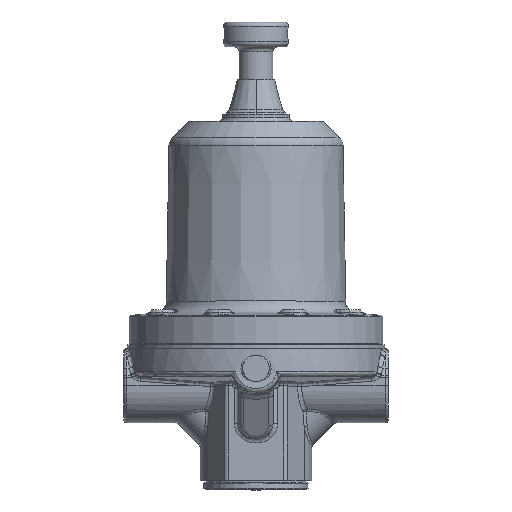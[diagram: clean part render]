
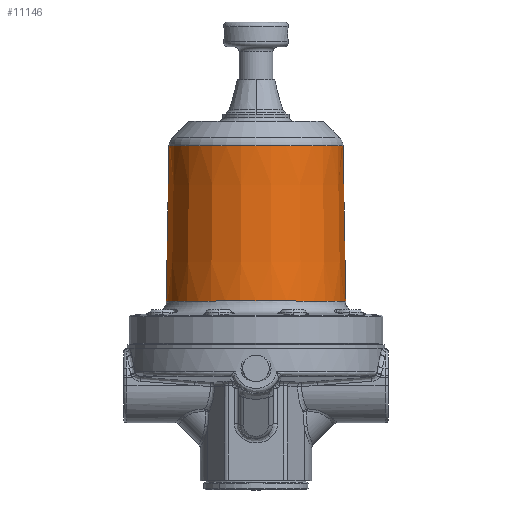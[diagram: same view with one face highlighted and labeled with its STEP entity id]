
A CAD part, top view. The second image highlights one B-rep face of the part: STEP entity #11146.
In plain terms, the highlighted conical face has half-angle 1 degrees and reference radius 28.5 mm.
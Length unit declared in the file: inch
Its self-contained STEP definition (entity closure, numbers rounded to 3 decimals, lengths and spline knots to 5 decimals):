
#10259=DIRECTION('',(0.017,1.,0.));
#10260=VECTOR('',#10259,1.97144);
#10261=CARTESIAN_POINT('',(-1.13926,2.27883,
0.));
#10262=LINE('',#10261,#10260);
#10263=DIRECTION('',(-0.017,1.,0.));
#10264=VECTOR('',#10263,1.97144);
#10265=CARTESIAN_POINT('',(1.13926,2.27883,
0.));
#10266=LINE('',#10265,#10264);
#10294=CARTESIAN_POINT('',(0.,2.27883,0.));
#10295=DIRECTION('',(0.,-1.,0.));
#10296=DIRECTION('',(1.,0.,0.));
#10297=AXIS2_PLACEMENT_3D('',#10294,#10295,#10296);
#10526=CARTESIAN_POINT('',(0.,4.24997,0.));
#10527=DIRECTION('',(0.,1.,0.));
#10528=DIRECTION('',(-1.,0.,0.));
#10529=AXIS2_PLACEMENT_3D('',#10526,#10527,#10528);
#10951=CARTESIAN_POINT('',(-1.13926,2.27883,0.));
#10952=CARTESIAN_POINT('',(1.13926,2.27883,0.));
#10953=VERTEX_POINT('',#10951);
#10954=VERTEX_POINT('',#10952);
#10963=CARTESIAN_POINT('',(1.10485,4.24997,0.));
#10964=CARTESIAN_POINT('',(-1.10485,4.24997,0.));
#10965=VERTEX_POINT('',#10963);
#10966=VERTEX_POINT('',#10964);
#11131=CARTESIAN_POINT('',(0.,3.2644,0.));
#11132=DIRECTION('',(0.,-1.,0.));
#11133=DIRECTION('',(-1.,0.,0.));
#11134=AXIS2_PLACEMENT_3D('',#11131,#11132,#11133);
#11135=CONICAL_SURFACE('',#11134,1.12205,1.);
#11137=ORIENTED_EDGE('',*,*,#11136,.T.);
#11139=ORIENTED_EDGE('',*,*,#11138,.F.);
#11141=ORIENTED_EDGE('',*,*,#11140,.T.);
#11143=ORIENTED_EDGE('',*,*,#11142,.T.);
#11144=EDGE_LOOP('',(#11137,#11139,#11141,#11143));
#11145=FACE_OUTER_BOUND('',#11144,.F.);
#11146=ADVANCED_FACE('',(#11145),#11135,.T.);
#10298=CIRCLE('',#10297,1.13926);
#10530=CIRCLE('',#10529,1.10485);
#11136=EDGE_CURVE('',#10966,#10965,#10530,.T.);
#11138=EDGE_CURVE('',#10954,#10965,#10266,.T.);
#11140=EDGE_CURVE('',#10954,#10953,#10298,.T.);
#11142=EDGE_CURVE('',#10953,#10966,#10262,.T.);
